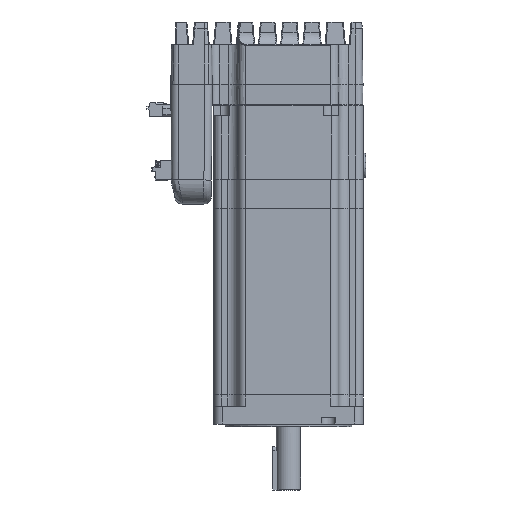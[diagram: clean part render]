
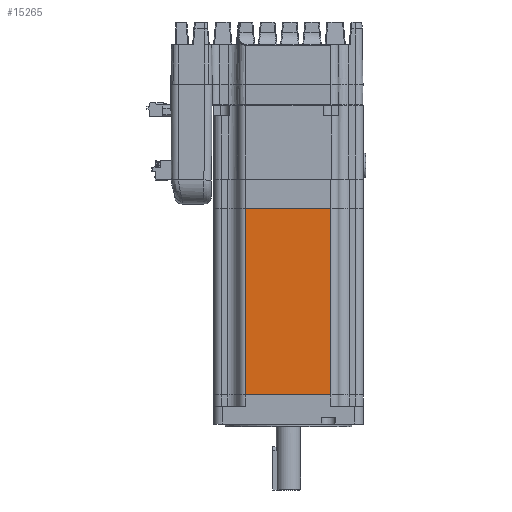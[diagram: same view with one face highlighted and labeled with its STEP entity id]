
A CAD part, front view. The second image highlights one B-rep face of the part: STEP entity #15265.
In plain terms, the highlighted planar face has unit normal (0, -1, 0).
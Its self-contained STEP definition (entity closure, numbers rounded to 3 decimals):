
#15265=ADVANCED_FACE('',(#26244),#19985,.F.);
#19985=PLANE('',#131334);
#26244=FACE_OUTER_BOUND('',#33436,.T.);
#33436=EDGE_LOOP('',(#64251,#64252,#64253,#64254));
#64251=ORIENTED_EDGE('',*,*,#95099,.T.);
#64252=ORIENTED_EDGE('',*,*,#95114,.F.);
#64253=ORIENTED_EDGE('',*,*,#95065,.F.);
#64254=ORIENTED_EDGE('',*,*,#95113,.T.);
#77921=VERTEX_POINT('',#207679);
#77922=VERTEX_POINT('',#207681);
#77955=VERTEX_POINT('',#207748);
#77956=VERTEX_POINT('',#207750);
#95065=EDGE_CURVE('',#77921,#77922,#108125,.T.);
#95099=EDGE_CURVE('',#77956,#77955,#108142,.T.);
#95113=EDGE_CURVE('',#77921,#77956,#108153,.T.);
#95114=EDGE_CURVE('',#77922,#77955,#108154,.T.);
#108125=LINE('',#207680,#120896);
#108142=LINE('',#207749,#120913);
#108153=LINE('',#207776,#120924);
#108154=LINE('',#207778,#120925);
#120896=VECTOR('',#160358,1.);
#120913=VECTOR('',#160411,1.);
#120924=VECTOR('',#160442,1.);
#120925=VECTOR('',#160445,1.);
#131334=AXIS2_PLACEMENT_3D('',#207779,#160446,#160447);
#160358=DIRECTION('',(1.,0.,0.));
#160411=DIRECTION('',(1.,0.,0.));
#160442=DIRECTION('',(0.,0.,-1.));
#160445=DIRECTION('',(0.,0.,-1.));
#160446=DIRECTION('',(0.,1.,0.));
#160447=DIRECTION('',(-1.,0.,0.));
#207679=CARTESIAN_POINT('',(-32.613,-40.67,-2.35));
#207680=CARTESIAN_POINT('',(-32.613,-40.67,-2.35));
#207681=CARTESIAN_POINT('',(16.387,-40.67,-2.35));
#207748=CARTESIAN_POINT('',(16.387,-40.67,-109.5));
#207749=CARTESIAN_POINT('',(-32.613,-40.67,-109.5));
#207750=CARTESIAN_POINT('',(-32.613,-40.67,-109.5));
#207776=CARTESIAN_POINT('',(-32.613,-40.67,-29.5));
#207778=CARTESIAN_POINT('',(16.387,-40.67,-29.5));
#207779=CARTESIAN_POINT('',(-32.613,-40.67,-29.5));
